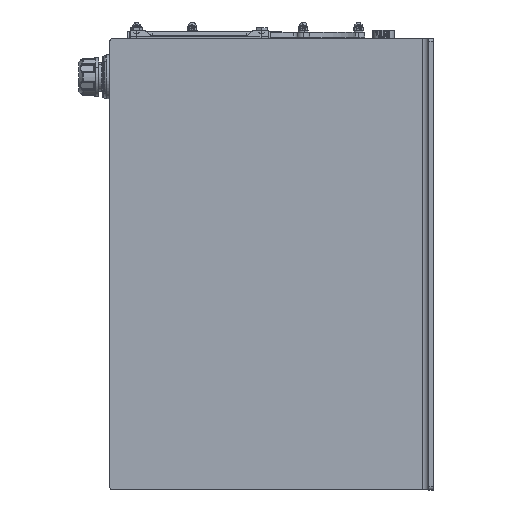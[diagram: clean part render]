
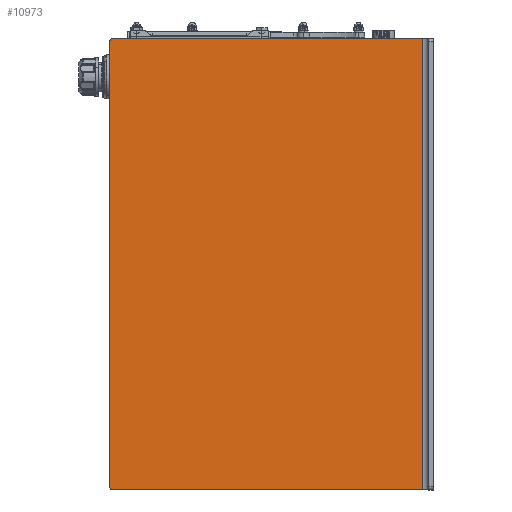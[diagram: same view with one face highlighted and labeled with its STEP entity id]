
A CAD part, left-side view. The second image highlights one B-rep face of the part: STEP entity #10973.
In plain terms, the highlighted planar face has unit normal (-1, 0, 0) as drawn and (0, 0, 1) by its records, which use the part's own axes.
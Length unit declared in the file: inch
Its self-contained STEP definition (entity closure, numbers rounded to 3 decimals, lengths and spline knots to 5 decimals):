
#36 = CARTESIAN_POINT ( 'NONE',  ( -18., -12.06245, 0. ) ) ;
#140 = ORIENTED_EDGE ( 'NONE', *, *, #32984, .T. ) ;
#1056 = EDGE_CURVE ( 'NONE', #10304, #35545, #14247, .T. ) ;
#1389 = DIRECTION ( 'NONE',  ( 0., 0., 1. ) ) ;
#1500 = CARTESIAN_POINT ( 'NONE',  ( -18., 12.90625, 0. ) ) ;
#1739 = ORIENTED_EDGE ( 'NONE', *, *, #29513, .T. ) ;
#1863 = LINE ( 'NONE', #1500, #18315 ) ;
#2592 = DIRECTION ( 'NONE',  ( 0., -1., 0. ) ) ;
#2797 = CARTESIAN_POINT ( 'NONE',  ( 18., -12.06245, 0. ) ) ;
#3953 = EDGE_CURVE ( 'NONE', #18853, #28868, #29747, .T. ) ;
#4560 = DIRECTION ( 'NONE',  ( -1., 0., 0. ) ) ;
#5052 = ORIENTED_EDGE ( 'NONE', *, *, #3953, .T. ) ;
#6068 = LINE ( 'NONE', #31047, #11772 ) ;
#6572 = ORIENTED_EDGE ( 'NONE', *, *, #1056, .F. ) ;
#6787 = DIRECTION ( 'NONE',  ( 0., 1., 0. ) ) ;
#6814 = CARTESIAN_POINT ( 'NONE',  ( 17.75, 12.65625, 0. ) ) ;
#10262 = EDGE_CURVE ( 'NONE', #19742, #35545, #32455, .T. ) ;
#10304 = VERTEX_POINT ( 'NONE', #24845 ) ;
#10973 = ADVANCED_FACE ( 'NONE', ( #18255 ), #23109, .F. ) ;
#11772 = VECTOR ( 'NONE', #6787, 39.37008 ) ;
#12030 = CARTESIAN_POINT ( 'NONE',  ( -17.75, 12.90625, 0. ) ) ;
#13267 = AXIS2_PLACEMENT_3D ( 'NONE', #20409, #28678, #35162 ) ;
#13916 = CARTESIAN_POINT ( 'NONE',  ( -18., 12.65625, 0. ) ) ;
#14247 = LINE ( 'NONE', #2797, #21761 ) ;
#14751 = ORIENTED_EDGE ( 'NONE', *, *, #34040, .T. ) ;
#15478 = CARTESIAN_POINT ( 'NONE',  ( 18., 12.65625, 0. ) ) ;
#16240 = EDGE_LOOP ( 'NONE', ( #14751, #5052, #140, #1739, #26778, #6572 ) ) ;
#17277 = AXIS2_PLACEMENT_3D ( 'NONE', #20138, #25497, #19608 ) ;
#18255 = FACE_OUTER_BOUND ( 'NONE', #16240, .T. ) ;
#18315 = VECTOR ( 'NONE', #4560, 39.37008 ) ;
#18853 = VERTEX_POINT ( 'NONE', #15478 ) ;
#19608 = DIRECTION ( 'NONE',  ( -1., 0., 0. ) ) ;
#19742 = VERTEX_POINT ( 'NONE', #13916 ) ;
#20138 = CARTESIAN_POINT ( 'NONE',  ( -17.75, 12.65625, 0. ) ) ;
#20409 = CARTESIAN_POINT ( 'NONE',  ( 0., 0., 0. ) ) ;
#21761 = VECTOR ( 'NONE', #24685, 39.37008 ) ;
#23109 = PLANE ( 'NONE',  #13267 ) ;
#23549 = VECTOR ( 'NONE', #2592, 39.37008 ) ;
#24140 = CIRCLE ( 'NONE', #17277, 0.25 ) ;
#24685 = DIRECTION ( 'NONE',  ( -1., 0., 0. ) ) ;
#24845 = CARTESIAN_POINT ( 'NONE',  ( 18., -12.06245, 0. ) ) ;
#25497 = DIRECTION ( 'NONE',  ( 0., 0., 1. ) ) ;
#26159 = DIRECTION ( 'NONE',  ( -1., 0., 0. ) ) ;
#26778 = ORIENTED_EDGE ( 'NONE', *, *, #10262, .T. ) ;
#27178 = VERTEX_POINT ( 'NONE', #12030 ) ;
#28678 = DIRECTION ( 'NONE',  ( 0., 0., -1. ) ) ;
#28868 = VERTEX_POINT ( 'NONE', #31578 ) ;
#29513 = EDGE_CURVE ( 'NONE', #27178, #19742, #24140, .T. ) ;
#29738 = CARTESIAN_POINT ( 'NONE',  ( -18., -12.90625, 0. ) ) ;
#29747 = CIRCLE ( 'NONE', #34926, 0.25 ) ;
#31047 = CARTESIAN_POINT ( 'NONE',  ( 18., -12.90625, 0. ) ) ;
#31578 = CARTESIAN_POINT ( 'NONE',  ( 17.75, 12.90625, 0. ) ) ;
#32455 = LINE ( 'NONE', #29738, #23549 ) ;
#32984 = EDGE_CURVE ( 'NONE', #28868, #27178, #1863, .T. ) ;
#34040 = EDGE_CURVE ( 'NONE', #10304, #18853, #6068, .T. ) ;
#34926 = AXIS2_PLACEMENT_3D ( 'NONE', #6814, #1389, #26159 ) ;
#35162 = DIRECTION ( 'NONE',  ( -1., 0., 0. ) ) ;
#35545 = VERTEX_POINT ( 'NONE', #36 ) ;
